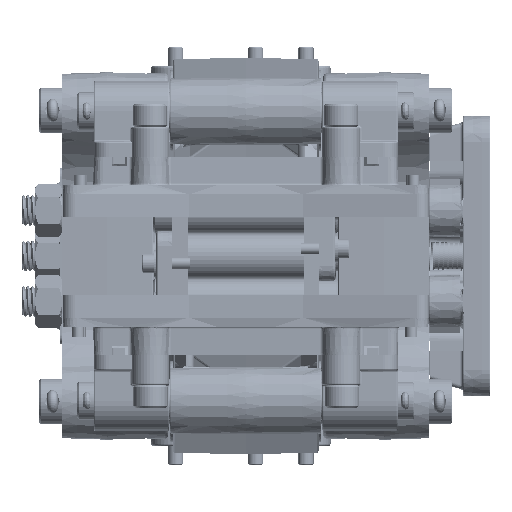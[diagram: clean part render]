
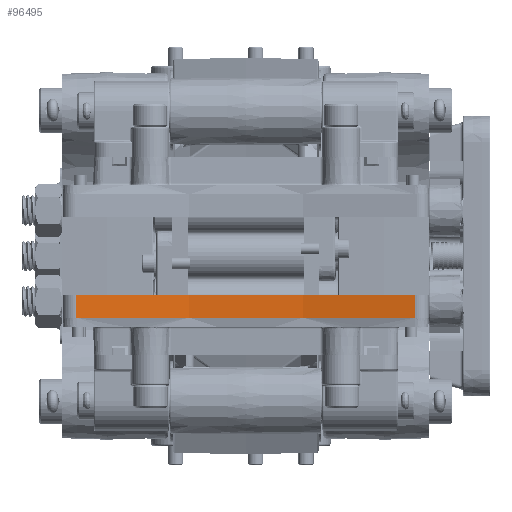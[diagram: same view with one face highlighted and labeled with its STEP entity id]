
A CAD part, left-side view. The second image highlights one B-rep face of the part: STEP entity #96495.
In plain terms, the highlighted cylindrical face has radius 317.5 mm (diameter 635 mm), a partial arc.
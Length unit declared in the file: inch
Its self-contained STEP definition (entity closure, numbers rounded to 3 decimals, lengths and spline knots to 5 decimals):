
#9642 = EDGE_CURVE ( 'NONE', #150059, #111003, #110683, .T. ) ;
#13261 = EDGE_CURVE ( 'NONE', #111003, #152126, #172451, .T. ) ;
#13875 = DIRECTION ( 'NONE',  ( 0., 0., 1. ) ) ;
#14895 = LINE ( 'NONE', #71770, #40885 ) ;
#18900 = CARTESIAN_POINT ( 'NONE',  ( -2.81549, 2.79064, -0.64 ) ) ;
#19028 = DIRECTION ( 'NONE',  ( 0., -1., 0. ) ) ;
#40885 = VECTOR ( 'NONE', #86713, 39.37008 ) ;
#40920 = DIRECTION ( 'NONE',  ( 0., -1., 0. ) ) ;
#41069 = CARTESIAN_POINT ( 'NONE',  ( -2.81549, -2.79064, -0.64 ) ) ;
#47259 = ORIENTED_EDGE ( 'NONE', *, *, #147100, .T. ) ;
#51467 = CIRCLE ( 'NONE', #66380, 12.5 ) ;
#54118 = AXIS2_PLACEMENT_3D ( 'NONE', #161825, #88201, #130984 ) ;
#64379 = ORIENTED_EDGE ( 'NONE', *, *, #9642, .F. ) ;
#66380 = AXIS2_PLACEMENT_3D ( 'NONE', #68903, #13875, #40920 ) ;
#68903 = CARTESIAN_POINT ( 'NONE',  ( -15., 0., -0.64 ) ) ;
#71770 = CARTESIAN_POINT ( 'NONE',  ( -2.81549, -2.79064, -1.015 ) ) ;
#74611 = EDGE_CURVE ( 'NONE', #170815, #152126, #51467, .T. ) ;
#75424 = CARTESIAN_POINT ( 'NONE',  ( -2.81549, 2.79064, -1.015 ) ) ;
#86713 = DIRECTION ( 'NONE',  ( 0., 0., 1. ) ) ;
#88201 = DIRECTION ( 'NONE',  ( 0., 0., 1. ) ) ;
#92643 = DIRECTION ( 'NONE',  ( 0., 0., 1. ) ) ;
#96495 = ADVANCED_FACE ( 'NONE', ( #103896 ), #148613, .F. ) ;
#99804 = ORIENTED_EDGE ( 'NONE', *, *, #13261, .F. ) ;
#103896 = FACE_OUTER_BOUND ( 'NONE', #162413, .T. ) ;
#110683 = CIRCLE ( 'NONE', #54118, 12.5 ) ;
#111003 = VERTEX_POINT ( 'NONE', #154825 ) ;
#116830 = VECTOR ( 'NONE', #147224, 39.37008 ) ;
#130984 = DIRECTION ( 'NONE',  ( 0., -1., 0. ) ) ;
#141966 = ORIENTED_EDGE ( 'NONE', *, *, #74611, .T. ) ;
#147100 = EDGE_CURVE ( 'NONE', #150059, #170815, #14895, .T. ) ;
#147224 = DIRECTION ( 'NONE',  ( 0., 0., 1. ) ) ;
#148613 = CYLINDRICAL_SURFACE ( 'NONE', #172231, 12.5 ) ;
#150059 = VERTEX_POINT ( 'NONE', #162277 ) ;
#152126 = VERTEX_POINT ( 'NONE', #18900 ) ;
#154825 = CARTESIAN_POINT ( 'NONE',  ( -2.81549, 2.79064, -1.015 ) ) ;
#160802 = CARTESIAN_POINT ( 'NONE',  ( -15., 0., -1.015 ) ) ;
#161825 = CARTESIAN_POINT ( 'NONE',  ( -15., 0., -1.015 ) ) ;
#162277 = CARTESIAN_POINT ( 'NONE',  ( -2.81549, -2.79064, -1.015 ) ) ;
#162413 = EDGE_LOOP ( 'NONE', ( #141966, #99804, #64379, #47259 ) ) ;
#170815 = VERTEX_POINT ( 'NONE', #41069 ) ;
#172231 = AXIS2_PLACEMENT_3D ( 'NONE', #160802, #92643, #19028 ) ;
#172451 = LINE ( 'NONE', #75424, #116830 ) ;
